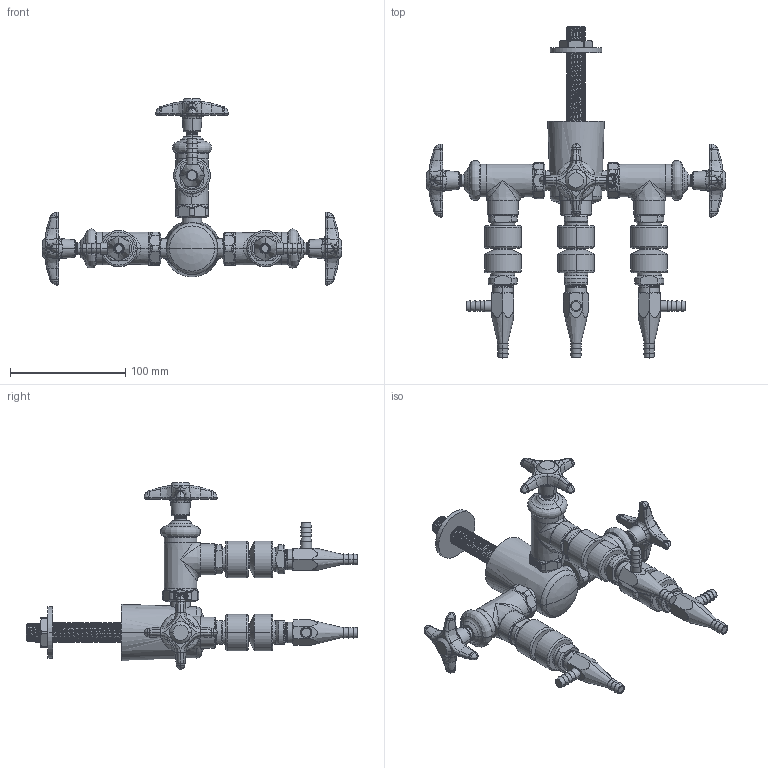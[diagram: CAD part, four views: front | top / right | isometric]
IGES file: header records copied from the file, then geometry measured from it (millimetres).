
Start section:  PTC IGES file: LWV2-C62-30.igs
Global section: file name: LWV2-C62-30.igs; native system: Creo Parametric by PTC Inc.; preprocessor: 2014500; author: usch_engrender; organization: Unknown; date: 20151124.122332; units: inch
Bounding box: 259.77 x 288.04 x 161.59 mm (x, y, z)
Volume: 455963.9 mm3; surface area: 122576.2 mm2
Topology: 1 solids, 8 shells, 2065 faces, 4869 edges, 2907 vertices
Faces by surface type: bspline 1068, revolution 997
